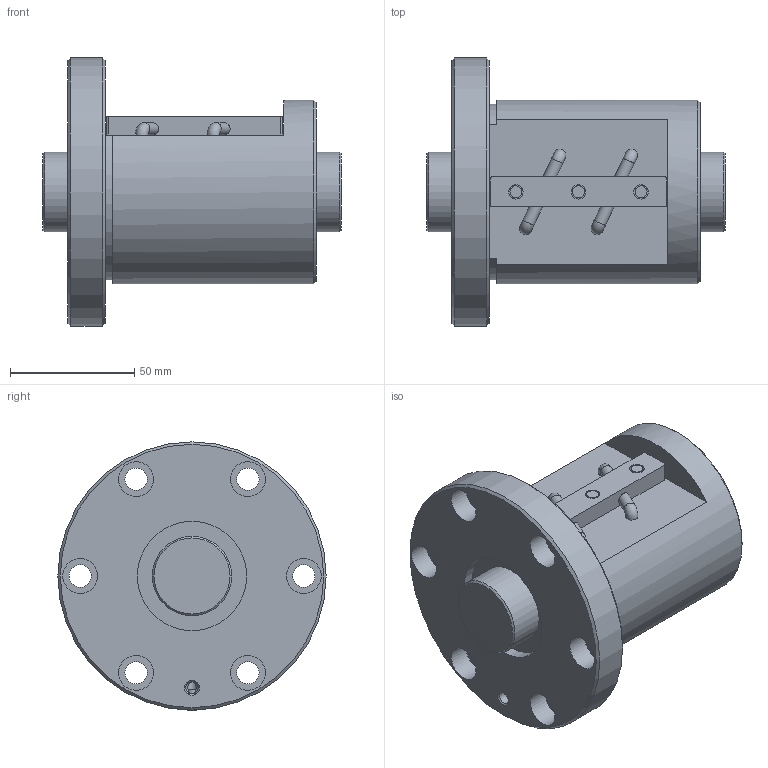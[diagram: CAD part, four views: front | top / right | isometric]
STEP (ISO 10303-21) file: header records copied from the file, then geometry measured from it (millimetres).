
FILE_DESCRIPTION(/* description */ ('STEP AP203'),/* implementation_level */ '2;1');
FILE_NAME(/* name */ 'BNF3210V-5RRG1+120LC0_000_rev',/* time_stamp */ '2024-08-06T08:37:54+02:00',/* author */ ('License CC BY-ND 4.0'),/* organization */ ('CADENAS'),/* preprocessor_version */ 'ST-DEVELOPER v19.3',/* originating_system */ 'PARTsolutions',/* authorisation */ ' ');
FILE_SCHEMA (('CONFIG_CONTROL_DESIGN'));
Length unit declared in the file: millimetre
Products named in the file (3): BNF3210V-5RRG1+120LC0_000_rev; BNF 3210A-5RR000 Shaft; BNF 3210A-5RR Nut
Assembly tree (2 placements, depth 2):
  BNF3210V-5RRG1+120LC0_000_rev
    BNF 3210A-5RR000 Shaft
    BNF 3210A-5RR Nut
Bounding box: 120 x 108 x 108 mm (x, y, z)
Volume: 466591.8 mm3; surface area: 71176.6 mm2
Topology: 2 solids, 2 shells, 77 faces, 168 edges, 110 vertices
Faces by surface type: cylinder 37, plane 29, cone 7, torus 4
Full cylindrical faces by diameter (mm): 3.75 x2, 4.8 x3, 4.917 x1, 4.931 x4, 5.8 x3, 9 x6, 14 x6, 32 x2, 44 x2, 74 x1, 108 x1
Entity records: 1945 total; most frequent: DIRECTION 348, CARTESIAN_POINT 326, ORIENTED_EDGE 220, AXIS2_PLACEMENT_3D 162, EDGE_LOOP 160, FACE_BOUND 160, EDGE_CURVE 110, VERTEX_POINT 96
